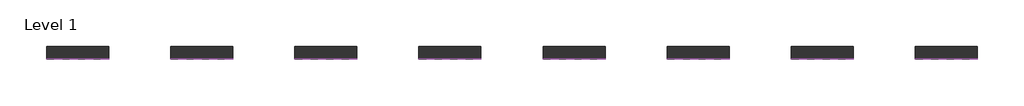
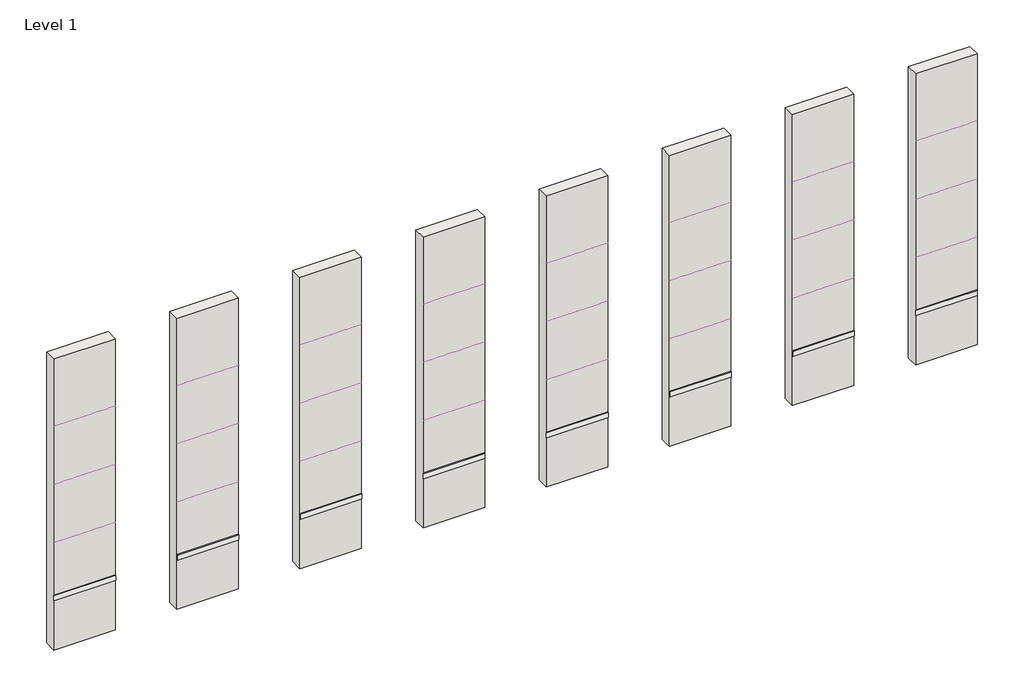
# One storey: 32 coverings, 8 walls.
"""IFC4 building model written with IfcOpenShell, lengths in millimetres."""

import ifcopenshell
import ifcopenshell.guid

model = None  # the IFC model being written
_history = None  # IfcOwnerHistory: only IFC2X3 demands one
_inside = {}  # id of a spatial element -> (the spatial element, [elements in it])
_under = {}  # id of a project, library or spatial element -> (it, [spatial elements below it])
_declared = {}  # id of a project -> (the project, [libraries it declares])
_typed = {}  # id of a type object -> (the type object, [elements of that type])
_made_of = {}  # id of a material, layer set ... -> (it, [elements and type objects made of it])


def new_model(schema):
    """Start an empty IFC model of exactly this schema.

    Asked for "IFC4X3", IfcOpenShell would pick the latest addendum, in which some entities
    have other attributes; the version numbers below select the first issue.
    IFC2X3 requires an IfcOwnerHistory on every rooted entity: one is made here for all.
    """
    global model, _history
    if schema == "IFC4X3":
        model = ifcopenshell.file(schema_version=(4, 3, 0, 0))
    else:
        model = ifcopenshell.file(schema=schema)
    _inside.clear()
    _under.clear()
    _declared.clear()
    _typed.clear()
    _made_of.clear()
    _history = None
    if model.schema == "IFC2X3":
        org = make("IfcOrganization", Name="unknown")
        user = make(
            "IfcPersonAndOrganization",
            ThePerson=make("IfcPerson", FamilyName="unknown"),
            TheOrganization=org,
        )
        app = make(
            "IfcApplication",
            ApplicationDeveloper=org,
            Version="unknown",
            ApplicationFullName="unknown",
            ApplicationIdentifier="unknown",
        )
        _history = make(
            "IfcOwnerHistory",
            OwningUser=user,
            OwningApplication=app,
            ChangeAction="ADDED",
            CreationDate=0,
        )
    return model


def make(cls, **values):
    """One entity of the class cls with the attributes given. An attribute that is None is left unset."""
    return model.create_entity(
        cls, **{name: value for name, value in values.items() if value is not None}
    )


def rooted(cls, **values):
    """An entity with a GlobalId (a new one), such as an element, a storey or a relation."""
    return make(cls, GlobalId=ifcopenshell.guid.new(), OwnerHistory=_history, **values)


def si_unit(unit_type, name, prefix=None):
    """IfcSIUnit, for example si_unit("LENGTHUNIT", "METRE", prefix="MILLI")."""
    return make("IfcSIUnit", UnitType=unit_type, Prefix=prefix, Name=name)


def assignment(units):
    """IfcUnitAssignment: the units of a project."""
    return None if units is None else make("IfcUnitAssignment", Units=units)


def point(xyz):
    """IfcCartesianPoint."""
    return None if xyz is None else make("IfcCartesianPoint", Coordinates=xyz)


def direction(xyz):
    """IfcDirection."""
    return None if xyz is None else make("IfcDirection", DirectionRatios=xyz)


def frame(location, z_axis=None, x_axis=None):
    """IfcAxis2Placement3D, a coordinate frame: its origin and axes. An axis left out is left unset."""
    return make(
        "IfcAxis2Placement3D",
        Location=point(location),
        Axis=direction(z_axis),
        RefDirection=direction(x_axis),
    )


def frame_2d(location, x_axis=None):
    """IfcAxis2Placement2D, a coordinate frame in the plane: its origin and x axis."""
    return make(
        "IfcAxis2Placement2D", Location=point(location), RefDirection=direction(x_axis)
    )


def origin():
    """The frame at (0, 0, 0) with its axes left unset."""
    return frame((0.0, 0.0, 0.0))


def origin_with_axes():
    """The frame at (0, 0, 0) with the z axis (0, 0, 1) and the x axis (1, 0, 0) written out."""
    return frame((0.0, 0.0, 0.0), z_axis=(0.0, 0.0, 1.0), x_axis=(1.0, 0.0, 0.0))


def place(relative_to, where):
    """IfcLocalPlacement: puts the frame where relative to a parent placement (None: the world)."""
    return make(
        "IfcLocalPlacement", PlacementRelTo=relative_to, RelativePlacement=where
    )


def context(
    kind, dimensions, precision=None, world=None, true_north=None, identifier=None
):
    """IfcGeometricRepresentationContext, for example the 3D "Model" context."""
    return make(
        "IfcGeometricRepresentationContext",
        ContextIdentifier=identifier,
        ContextType=kind,
        CoordinateSpaceDimension=dimensions,
        Precision=precision,
        WorldCoordinateSystem=world,
        TrueNorth=true_north,
    )


def project(units=None, contexts=None):
    """IfcProject with its units and contexts."""
    return rooted(
        "IfcProject",
        Name="project",
        RepresentationContexts=contexts,
        UnitsInContext=assignment(units),
    )


def spatial(cls, under=None, at=None, **own):
    """A site, building, storey or space (cls), placed at a placement, below another one or the project."""
    s = rooted(cls, ObjectPlacement=at, **own)
    if under is not None:
        _under.setdefault(under.id(), (under, []))[1].append(s)
    return s


def polyline(points):
    """IfcPolyline through the points."""
    return make("IfcPolyline", Points=[point(p) for p in points])


def circle_curve(where, radius):
    """IfcCircle in the frame where."""
    return make("IfcCircle", Position=where, Radius=radius)


def trimmed(basis, trim1, trim2, sense, master):
    """IfcTrimmedCurve: the piece of a basis curve between two trims."""
    return make(
        "IfcTrimmedCurve",
        BasisCurve=basis,
        Trim1=trim1,
        Trim2=trim2,
        SenseAgreement=sense,
        MasterRepresentation=master,
    )


def segment(curve, same_sense, transition):
    """IfcCompositeCurveSegment."""
    return make(
        "IfcCompositeCurveSegment",
        Transition=transition,
        SameSense=same_sense,
        ParentCurve=curve,
    )


def composite_curve(segments, self_intersect=None):
    """IfcCompositeCurve: segments joined end to end."""
    return make("IfcCompositeCurve", Segments=segments, SelfIntersect=self_intersect)


def outline(outer, holes=None, kind="AREA"):
    """IfcArbitraryClosedProfileDef: a profile drawn as a closed curve; with holes, ...WithVoids."""
    if holes is None:
        return make("IfcArbitraryClosedProfileDef", ProfileType=kind, OuterCurve=outer)
    return make(
        "IfcArbitraryProfileDefWithVoids",
        ProfileType=kind,
        OuterCurve=outer,
        InnerCurves=holes,
    )


def extrude(swept, where, along, depth):
    """IfcExtrudedAreaSolid: the profile swept, set in the frame where, extruded along a direction by depth."""
    return make(
        "IfcExtrudedAreaSolid",
        SweptArea=swept,
        Position=where,
        ExtrudedDirection=direction(along),
        Depth=depth,
    )


def shape(context_of_items, identifier, shape_type, items):
    """IfcShapeRepresentation: the items that make up one representation, for example the "Body"."""
    return make(
        "IfcShapeRepresentation",
        ContextOfItems=context_of_items,
        RepresentationIdentifier=identifier,
        RepresentationType=shape_type,
        Items=items,
    )


def made_of(thing, what):
    """Note that an element or type object is made of a material, layer set ...; save() writes the relation."""
    if what is not None:
        _made_of.setdefault(what.id(), (what, []))[1].append(thing)
    return thing


def element(
    cls,
    number,
    at=None,
    inside=None,
    cuts=None,
    type_object=None,
    material=None,
    context=None,
    identifier="Body",
    shape_type=None,
    held_by="IfcProductDefinitionShape",
    body=None,
    shapes=None,
    **own,
):
    """One element of the class cls, such as IfcWall. Its Tag is "e" and its number.

    at: its placement. inside: the storey or other place that contains it. cuts: it is an
    opening in that element (IfcRelVoidsElement). A single representation is given by context,
    identifier, shape_type and body (its items); several are given by shapes. held_by: the class
    of the entity that holds the representations. save() writes the other relations.
    """
    e = rooted(cls, Tag="e%d" % number, ObjectPlacement=at, **own)
    if body is not None:
        shapes = [shape(context, identifier, shape_type, body)]
    if shapes is not None:
        e.Representation = make(held_by, Representations=shapes)
    if inside is not None:
        _inside.setdefault(inside.id(), (inside, []))[1].append(e)
    if cuts is not None:
        rooted(
            "IfcRelVoidsElement", RelatingBuildingElement=cuts, RelatedOpeningElement=e
        )
    if type_object is not None:
        _typed.setdefault(type_object.id(), (type_object, []))[1].append(e)
    return made_of(e, material)


def aggregate(whole, parts):
    """IfcRelAggregates: a whole, such as a stair, and the parts it consists of."""
    return rooted("IfcRelAggregates", RelatingObject=whole, RelatedObjects=parts)


def save(model, path):
    """Write the relations noted so far, then the file.

    IfcRelAggregates (storeys below a building ...), IfcRelContainedInSpatialStructure (elements
    in a storey), IfcRelDefinesByType, IfcRelAssociatesMaterial and IfcRelDeclares: one each for
    every whole, place, type object, material and project.
    """
    for whole, parts in _under.values():
        aggregate(whole, parts)
    for where, things in _inside.values():
        rooted(
            "IfcRelContainedInSpatialStructure",
            RelatedElements=things,
            RelatingStructure=where,
        )
    for kind, things in _typed.values():
        rooted("IfcRelDefinesByType", RelatedObjects=things, RelatingType=kind)
    for what, things in _made_of.values():
        rooted("IfcRelAssociatesMaterial", RelatedObjects=things, RelatingMaterial=what)
    for by, libraries in _declared.values():
        rooted("IfcRelDeclares", RelatingContext=by, RelatedDefinitions=libraries)
    model.write(path)


model = new_model("IFC4")

# Units and contexts
model_context = context("Model", 3, world=origin())
ifc_project = project(units=[si_unit("LENGTHUNIT", "METRE", prefix="MILLI")], contexts=[model_context])

# Site, building, storey
site = spatial("IfcSite", under=ifc_project)
building = spatial("IfcBuilding", under=site)
storey = spatial("IfcBuildingStorey", under=building, Name="Level 1", Elevation=0.0)

# Coverings
placement = place(None, origin())
element("IfcCovering", 1, ObjectType="REVIGRÉS-LOCUS-RB-8X60-SILK-ALLOY", at=placement, inside=storey, context=model_context, shape_type="SweptSolid", body=[
    extrude(outline(composite_curve([segment(polyline([(-6973.1153225, 2850.0), (-6981.6153225, 2850.0), (-6981.6153225, 2921.5)]), True, "CONTINUOUS"), segment(trimmed(circle_curve(frame_2d((-6973.1153225, 2921.5)), 8.5), [point((-6981.6153225, 2921.5))], [point((-6973.1153225, 2930.0))], False, "CARTESIAN"), True, "CONTINUOUS"), segment(polyline([(-6973.1153225, 2930.0), (-6973.1153225, 2850.0)]), True, "CONTINUOUS")], self_intersect=False)), frame((5592.0023157, 0.0, 0.0), z_axis=(1.0, 0.0, 0.0), x_axis=(0.0, 1.0, 0.0)), (0.0, 0.0, 1.0), 1000.0),
])
element("IfcCovering", 2, ObjectType="REVIGRÉS-LOCUS-RB-8X90-SILK-ALLOY", at=placement, inside=storey, context=model_context, shape_type="SweptSolid", body=[
    extrude(outline(composite_curve([segment(polyline([(-6973.1153225, 1850.0), (-6983.6153225, 1850.0), (-6983.6153225, 1919.5)]), True, "CONTINUOUS"), segment(trimmed(circle_curve(frame_2d((-6973.1153225, 1919.5)), 10.5), [point((-6983.6153225, 1919.5))], [point((-6973.1153225, 1930.0))], False, "CARTESIAN"), True, "CONTINUOUS"), segment(polyline([(-6973.1153225, 1930.0), (-6973.1153225, 1850.0)]), True, "CONTINUOUS")], self_intersect=False)), frame((5592.0023157, 0.0, 0.0), z_axis=(1.0, 0.0, 0.0), x_axis=(0.0, 1.0, 0.0)), (0.0, 0.0, 1.0), 1000.0),
])
element("IfcCovering", 3, ObjectType="REVIGRÉS-LOCUS-RB-8X45-SILK-ALLOY", at=placement, inside=storey, context=model_context, shape_type="SweptSolid", body=[
    extrude(outline(composite_curve([segment(polyline([(-6973.1153225, 3850.0), (-6983.6153225, 3850.0), (-6983.6153225, 3919.5)]), True, "CONTINUOUS"), segment(trimmed(circle_curve(frame_2d((-6973.1153225, 3919.5)), 10.5), [point((-6983.6153225, 3919.5))], [point((-6973.1153225, 3930.0))], False, "CARTESIAN"), True, "CONTINUOUS"), segment(polyline([(-6973.1153225, 3930.0), (-6973.1153225, 3850.0)]), True, "CONTINUOUS")], self_intersect=False)), frame((5592.0023157, 0.0, 0.0), z_axis=(1.0, 0.0, 0.0), x_axis=(0.0, 1.0, 0.0)), (0.0, 0.0, 1.0), 1000.0),
])
element("IfcCovering", 4, ObjectType="REVIGRÉS-LOCUS-RB-9,5X30-SILK-ALLOY", at=placement, inside=storey, context=model_context, shape_type="SweptSolid", body=[
    extrude(outline(composite_curve([segment(polyline([(-6973.1153225, 850.0), (-6981.6153225, 850.0), (-6981.6153225, 936.5)]), True, "CONTINUOUS"), segment(trimmed(circle_curve(frame_2d((-6973.1153225, 936.5)), 8.5), [point((-6981.6153225, 936.5))], [point((-6973.1153225, 945.0))], False, "CARTESIAN"), True, "CONTINUOUS"), segment(polyline([(-6973.1153225, 945.0), (-6973.1153225, 850.0)]), True, "CONTINUOUS")], self_intersect=False)), frame((5592.0023157, 0.0, 0.0), z_axis=(1.0, 0.0, 0.0), x_axis=(0.0, 1.0, 0.0)), (0.0, 0.0, 1.0), 1000.0),
])
element("IfcCovering", 5, ObjectType="REVIGRÉS-LOCUS-RB-8X60-SOFT GRIP-ALLOY", at=placement, inside=storey, context=model_context, shape_type="SweptSolid", body=[
    extrude(outline(composite_curve([segment(polyline([(-6973.1153225, 2850.0), (-6981.6153225, 2850.0), (-6981.6153225, 2921.5)]), True, "CONTINUOUS"), segment(trimmed(circle_curve(frame_2d((-6973.1153225, 2921.5)), 8.5), [point((-6981.6153225, 2921.5))], [point((-6973.1153225, 2930.0))], False, "CARTESIAN"), True, "CONTINUOUS"), segment(polyline([(-6973.1153225, 2930.0), (-6973.1153225, 2850.0)]), True, "CONTINUOUS")], self_intersect=False)), frame((7592.0023157, 0.0, 0.0), z_axis=(1.0, 0.0, 0.0), x_axis=(0.0, 1.0, 0.0)), (0.0, 0.0, 1.0), 1000.0),
])
element("IfcCovering", 6, ObjectType="REVIGRÉS-LOCUS-RB-8X90-SOFT GRIP-ALLOY", at=placement, inside=storey, context=model_context, shape_type="SweptSolid", body=[
    extrude(outline(composite_curve([segment(polyline([(-6973.1153225, 1850.0), (-6983.6153225, 1850.0), (-6983.6153225, 1919.5)]), True, "CONTINUOUS"), segment(trimmed(circle_curve(frame_2d((-6973.1153225, 1919.5)), 10.5), [point((-6983.6153225, 1919.5))], [point((-6973.1153225, 1930.0))], False, "CARTESIAN"), True, "CONTINUOUS"), segment(polyline([(-6973.1153225, 1930.0), (-6973.1153225, 1850.0)]), True, "CONTINUOUS")], self_intersect=False)), frame((7592.0023157, 0.0, 0.0), z_axis=(1.0, 0.0, 0.0), x_axis=(0.0, 1.0, 0.0)), (0.0, 0.0, 1.0), 1000.0),
])
element("IfcCovering", 7, ObjectType="REVIGRÉS-LOCUS-RB-8X45-SOFT GRIP-ALLOY", at=placement, inside=storey, context=model_context, shape_type="SweptSolid", body=[
    extrude(outline(composite_curve([segment(polyline([(-6973.1153225, 3850.0), (-6983.6153225, 3850.0), (-6983.6153225, 3919.5)]), True, "CONTINUOUS"), segment(trimmed(circle_curve(frame_2d((-6973.1153225, 3919.5)), 10.5), [point((-6983.6153225, 3919.5))], [point((-6973.1153225, 3930.0))], False, "CARTESIAN"), True, "CONTINUOUS"), segment(polyline([(-6973.1153225, 3930.0), (-6973.1153225, 3850.0)]), True, "CONTINUOUS")], self_intersect=False)), frame((7592.0023157, 0.0, 0.0), z_axis=(1.0, 0.0, 0.0), x_axis=(0.0, 1.0, 0.0)), (0.0, 0.0, 1.0), 1000.0),
])
element("IfcCovering", 8, ObjectType="REVIGRÉS-LOCUS-RB-9,5X30-SOFT GRIP-ALLOY", at=placement, inside=storey, context=model_context, shape_type="SweptSolid", body=[
    extrude(outline(composite_curve([segment(polyline([(-6973.1153225, 850.0), (-6981.6153225, 850.0), (-6981.6153225, 936.5)]), True, "CONTINUOUS"), segment(trimmed(circle_curve(frame_2d((-6973.1153225, 936.5)), 8.5), [point((-6981.6153225, 936.5))], [point((-6973.1153225, 945.0))], False, "CARTESIAN"), True, "CONTINUOUS"), segment(polyline([(-6973.1153225, 945.0), (-6973.1153225, 850.0)]), True, "CONTINUOUS")], self_intersect=False)), frame((7592.0023157, 0.0, 0.0), z_axis=(1.0, 0.0, 0.0), x_axis=(0.0, 1.0, 0.0)), (0.0, 0.0, 1.0), 1000.0),
])
element("IfcCovering", 9, ObjectType="REVIGRÉS-LOCUS-RB-8X60-SILK-BONE", at=placement, inside=storey, context=model_context, shape_type="SweptSolid", body=[
    extrude(outline(composite_curve([segment(polyline([(-6973.1153225, 2850.0), (-6981.6153225, 2850.0), (-6981.6153225, 2921.5)]), True, "CONTINUOUS"), segment(trimmed(circle_curve(frame_2d((-6973.1153225, 2921.5)), 8.5), [point((-6981.6153225, 2921.5))], [point((-6973.1153225, 2930.0))], False, "CARTESIAN"), True, "CONTINUOUS"), segment(polyline([(-6973.1153225, 2930.0), (-6973.1153225, 2850.0)]), True, "CONTINUOUS")], self_intersect=False)), frame((9592.0023157, 0.0, 0.0), z_axis=(1.0, 0.0, 0.0), x_axis=(0.0, 1.0, 0.0)), (0.0, 0.0, 1.0), 1000.0),
])
element("IfcCovering", 10, ObjectType="REVIGRÉS-LOCUS-RB-8X90-SILK-BONE", at=placement, inside=storey, context=model_context, shape_type="SweptSolid", body=[
    extrude(outline(composite_curve([segment(polyline([(-6973.1153225, 1850.0), (-6983.6153225, 1850.0), (-6983.6153225, 1919.5)]), True, "CONTINUOUS"), segment(trimmed(circle_curve(frame_2d((-6973.1153225, 1919.5)), 10.5), [point((-6983.6153225, 1919.5))], [point((-6973.1153225, 1930.0))], False, "CARTESIAN"), True, "CONTINUOUS"), segment(polyline([(-6973.1153225, 1930.0), (-6973.1153225, 1850.0)]), True, "CONTINUOUS")], self_intersect=False)), frame((9592.0023157, 0.0, 0.0), z_axis=(1.0, 0.0, 0.0), x_axis=(0.0, 1.0, 0.0)), (0.0, 0.0, 1.0), 1000.0),
])
element("IfcCovering", 11, ObjectType="REVIGRÉS-LOCUS-RB-8X45-SILK-BONE", at=placement, inside=storey, context=model_context, shape_type="SweptSolid", body=[
    extrude(outline(composite_curve([segment(polyline([(-6973.1153225, 3850.0), (-6983.6153225, 3850.0), (-6983.6153225, 3919.5)]), True, "CONTINUOUS"), segment(trimmed(circle_curve(frame_2d((-6973.1153225, 3919.5)), 10.5), [point((-6983.6153225, 3919.5))], [point((-6973.1153225, 3930.0))], False, "CARTESIAN"), True, "CONTINUOUS"), segment(polyline([(-6973.1153225, 3930.0), (-6973.1153225, 3850.0)]), True, "CONTINUOUS")], self_intersect=False)), frame((9592.0023157, 0.0, 0.0), z_axis=(1.0, 0.0, 0.0), x_axis=(0.0, 1.0, 0.0)), (0.0, 0.0, 1.0), 1000.0),
])
element("IfcCovering", 12, ObjectType="REVIGRÉS-LOCUS-RB-9,5X30-SILK-BONE", at=placement, inside=storey, context=model_context, shape_type="SweptSolid", body=[
    extrude(outline(composite_curve([segment(polyline([(-6973.1153225, 850.0), (-6981.6153225, 850.0), (-6981.6153225, 936.5)]), True, "CONTINUOUS"), segment(trimmed(circle_curve(frame_2d((-6973.1153225, 936.5)), 8.5), [point((-6981.6153225, 936.5))], [point((-6973.1153225, 945.0))], False, "CARTESIAN"), True, "CONTINUOUS"), segment(polyline([(-6973.1153225, 945.0), (-6973.1153225, 850.0)]), True, "CONTINUOUS")], self_intersect=False)), frame((9592.0023157, 0.0, 0.0), z_axis=(1.0, 0.0, 0.0), x_axis=(0.0, 1.0, 0.0)), (0.0, 0.0, 1.0), 1000.0),
])
element("IfcCovering", 13, ObjectType="REVIGRÉS-LOCUS-RB-8X60-SOFT GRIP-BONE", at=placement, inside=storey, context=model_context, shape_type="SweptSolid", body=[
    extrude(outline(composite_curve([segment(polyline([(-6973.1153225, 2850.0), (-6981.6153225, 2850.0), (-6981.6153225, 2921.5)]), True, "CONTINUOUS"), segment(trimmed(circle_curve(frame_2d((-6973.1153225, 2921.5)), 8.5), [point((-6981.6153225, 2921.5))], [point((-6973.1153225, 2930.0))], False, "CARTESIAN"), True, "CONTINUOUS"), segment(polyline([(-6973.1153225, 2930.0), (-6973.1153225, 2850.0)]), True, "CONTINUOUS")], self_intersect=False)), frame((11592.0023157, 0.0, 0.0), z_axis=(1.0, 0.0, 0.0), x_axis=(0.0, 1.0, 0.0)), (0.0, 0.0, 1.0), 1000.0),
])
element("IfcCovering", 14, ObjectType="REVIGRÉS-LOCUS-RB-8X90-SOFT GRIP-BONE", at=placement, inside=storey, context=model_context, shape_type="SweptSolid", body=[
    extrude(outline(composite_curve([segment(polyline([(-6973.1153225, 1850.0), (-6983.6153225, 1850.0), (-6983.6153225, 1919.5)]), True, "CONTINUOUS"), segment(trimmed(circle_curve(frame_2d((-6973.1153225, 1919.5)), 10.5), [point((-6983.6153225, 1919.5))], [point((-6973.1153225, 1930.0))], False, "CARTESIAN"), True, "CONTINUOUS"), segment(polyline([(-6973.1153225, 1930.0), (-6973.1153225, 1850.0)]), True, "CONTINUOUS")], self_intersect=False)), frame((11592.0023157, 0.0, 0.0), z_axis=(1.0, 0.0, 0.0), x_axis=(0.0, 1.0, 0.0)), (0.0, 0.0, 1.0), 1000.0),
])
element("IfcCovering", 15, ObjectType="REVIGRÉS-LOCUS-RB-8X45-SOFT GRIP-BONE", at=placement, inside=storey, context=model_context, shape_type="SweptSolid", body=[
    extrude(outline(composite_curve([segment(polyline([(-6973.1153225, 3850.0), (-6983.6153225, 3850.0), (-6983.6153225, 3919.5)]), True, "CONTINUOUS"), segment(trimmed(circle_curve(frame_2d((-6973.1153225, 3919.5)), 10.5), [point((-6983.6153225, 3919.5))], [point((-6973.1153225, 3930.0))], False, "CARTESIAN"), True, "CONTINUOUS"), segment(polyline([(-6973.1153225, 3930.0), (-6973.1153225, 3850.0)]), True, "CONTINUOUS")], self_intersect=False)), frame((11592.0023157, 0.0, 0.0), z_axis=(1.0, 0.0, 0.0), x_axis=(0.0, 1.0, 0.0)), (0.0, 0.0, 1.0), 1000.0),
])
element("IfcCovering", 16, ObjectType="REVIGRÉS-LOCUS-RB-9,5X30-SOFT GRIP-BONE", at=placement, inside=storey, context=model_context, shape_type="SweptSolid", body=[
    extrude(outline(composite_curve([segment(polyline([(-6973.1153225, 850.0), (-6981.6153225, 850.0), (-6981.6153225, 936.5)]), True, "CONTINUOUS"), segment(trimmed(circle_curve(frame_2d((-6973.1153225, 936.5)), 8.5), [point((-6981.6153225, 936.5))], [point((-6973.1153225, 945.0))], False, "CARTESIAN"), True, "CONTINUOUS"), segment(polyline([(-6973.1153225, 945.0), (-6973.1153225, 850.0)]), True, "CONTINUOUS")], self_intersect=False)), frame((11592.0023157, 0.0, 0.0), z_axis=(1.0, 0.0, 0.0), x_axis=(0.0, 1.0, 0.0)), (0.0, 0.0, 1.0), 1000.0),
])
element("IfcCovering", 17, ObjectType="REVIGRÉS-LOCUS-RB-8X60-SILK-GRIS", at=placement, inside=storey, context=model_context, shape_type="SweptSolid", body=[
    extrude(outline(composite_curve([segment(polyline([(-6973.1153225, 2850.0), (-6981.6153225, 2850.0), (-6981.6153225, 2921.5)]), True, "CONTINUOUS"), segment(trimmed(circle_curve(frame_2d((-6973.1153225, 2921.5)), 8.5), [point((-6981.6153225, 2921.5))], [point((-6973.1153225, 2930.0))], False, "CARTESIAN"), True, "CONTINUOUS"), segment(polyline([(-6973.1153225, 2930.0), (-6973.1153225, 2850.0)]), True, "CONTINUOUS")], self_intersect=False)), frame((13592.0023157, 0.0, 0.0), z_axis=(1.0, 0.0, 0.0), x_axis=(0.0, 1.0, 0.0)), (0.0, 0.0, 1.0), 1000.0),
])
element("IfcCovering", 18, ObjectType="REVIGRÉS-LOCUS-RB-8X90-SILK-GRIS", at=placement, inside=storey, context=model_context, shape_type="SweptSolid", body=[
    extrude(outline(composite_curve([segment(polyline([(-6973.1153225, 1850.0), (-6983.6153225, 1850.0), (-6983.6153225, 1919.5)]), True, "CONTINUOUS"), segment(trimmed(circle_curve(frame_2d((-6973.1153225, 1919.5)), 10.5), [point((-6983.6153225, 1919.5))], [point((-6973.1153225, 1930.0))], False, "CARTESIAN"), True, "CONTINUOUS"), segment(polyline([(-6973.1153225, 1930.0), (-6973.1153225, 1850.0)]), True, "CONTINUOUS")], self_intersect=False)), frame((13592.0023157, 0.0, 0.0), z_axis=(1.0, 0.0, 0.0), x_axis=(0.0, 1.0, 0.0)), (0.0, 0.0, 1.0), 1000.0),
])
element("IfcCovering", 19, ObjectType="REVIGRÉS-LOCUS-RB-8X45-SILK-GRIS", at=placement, inside=storey, context=model_context, shape_type="SweptSolid", body=[
    extrude(outline(composite_curve([segment(polyline([(-6973.1153225, 3850.0), (-6983.6153225, 3850.0), (-6983.6153225, 3919.5)]), True, "CONTINUOUS"), segment(trimmed(circle_curve(frame_2d((-6973.1153225, 3919.5)), 10.5), [point((-6983.6153225, 3919.5))], [point((-6973.1153225, 3930.0))], False, "CARTESIAN"), True, "CONTINUOUS"), segment(polyline([(-6973.1153225, 3930.0), (-6973.1153225, 3850.0)]), True, "CONTINUOUS")], self_intersect=False)), frame((13592.0023157, 0.0, 0.0), z_axis=(1.0, 0.0, 0.0), x_axis=(0.0, 1.0, 0.0)), (0.0, 0.0, 1.0), 1000.0),
])
element("IfcCovering", 20, ObjectType="REVIGRÉS-LOCUS-RB-9,5X30-SILK-GRIS", at=placement, inside=storey, context=model_context, shape_type="SweptSolid", body=[
    extrude(outline(composite_curve([segment(polyline([(-6973.1153225, 850.0), (-6981.6153225, 850.0), (-6981.6153225, 936.5)]), True, "CONTINUOUS"), segment(trimmed(circle_curve(frame_2d((-6973.1153225, 936.5)), 8.5), [point((-6981.6153225, 936.5))], [point((-6973.1153225, 945.0))], False, "CARTESIAN"), True, "CONTINUOUS"), segment(polyline([(-6973.1153225, 945.0), (-6973.1153225, 850.0)]), True, "CONTINUOUS")], self_intersect=False)), frame((13592.0023157, 0.0, 0.0), z_axis=(1.0, 0.0, 0.0), x_axis=(0.0, 1.0, 0.0)), (0.0, 0.0, 1.0), 1000.0),
])
element("IfcCovering", 21, ObjectType="REVIGRÉS-LOCUS-RB-8X60-SOFT GRIP-GRIS", at=placement, inside=storey, context=model_context, shape_type="SweptSolid", body=[
    extrude(outline(composite_curve([segment(polyline([(-6973.1153225, 2850.0), (-6981.6153225, 2850.0), (-6981.6153225, 2921.5)]), True, "CONTINUOUS"), segment(trimmed(circle_curve(frame_2d((-6973.1153225, 2921.5)), 8.5), [point((-6981.6153225, 2921.5))], [point((-6973.1153225, 2930.0))], False, "CARTESIAN"), True, "CONTINUOUS"), segment(polyline([(-6973.1153225, 2930.0), (-6973.1153225, 2850.0)]), True, "CONTINUOUS")], self_intersect=False)), frame((15592.0023157, 0.0, 0.0), z_axis=(1.0, 0.0, 0.0), x_axis=(0.0, 1.0, 0.0)), (0.0, 0.0, 1.0), 1000.0),
])
element("IfcCovering", 22, ObjectType="REVIGRÉS-LOCUS-RB-8X90-SOFT GRIP-GRIS", at=placement, inside=storey, context=model_context, shape_type="SweptSolid", body=[
    extrude(outline(composite_curve([segment(polyline([(-6973.1153225, 1850.0), (-6983.6153225, 1850.0), (-6983.6153225, 1919.5)]), True, "CONTINUOUS"), segment(trimmed(circle_curve(frame_2d((-6973.1153225, 1919.5)), 10.5), [point((-6983.6153225, 1919.5))], [point((-6973.1153225, 1930.0))], False, "CARTESIAN"), True, "CONTINUOUS"), segment(polyline([(-6973.1153225, 1930.0), (-6973.1153225, 1850.0)]), True, "CONTINUOUS")], self_intersect=False)), frame((15592.0023157, 0.0, 0.0), z_axis=(1.0, 0.0, 0.0), x_axis=(0.0, 1.0, 0.0)), (0.0, 0.0, 1.0), 1000.0),
])
element("IfcCovering", 23, ObjectType="REVIGRÉS-LOCUS-RB-8X45-SOFT GRIP-GRIS", at=placement, inside=storey, context=model_context, shape_type="SweptSolid", body=[
    extrude(outline(composite_curve([segment(polyline([(-6973.1153225, 3850.0), (-6983.6153225, 3850.0), (-6983.6153225, 3919.5)]), True, "CONTINUOUS"), segment(trimmed(circle_curve(frame_2d((-6973.1153225, 3919.5)), 10.5), [point((-6983.6153225, 3919.5))], [point((-6973.1153225, 3930.0))], False, "CARTESIAN"), True, "CONTINUOUS"), segment(polyline([(-6973.1153225, 3930.0), (-6973.1153225, 3850.0)]), True, "CONTINUOUS")], self_intersect=False)), frame((15592.0023157, 0.0, 0.0), z_axis=(1.0, 0.0, 0.0), x_axis=(0.0, 1.0, 0.0)), (0.0, 0.0, 1.0), 1000.0),
])
element("IfcCovering", 24, ObjectType="REVIGRÉS-LOCUS-RB-9,5X30-SOFT GRIP-GRIS", at=placement, inside=storey, context=model_context, shape_type="SweptSolid", body=[
    extrude(outline(composite_curve([segment(polyline([(-6973.1153225, 850.0), (-6981.6153225, 850.0), (-6981.6153225, 936.5)]), True, "CONTINUOUS"), segment(trimmed(circle_curve(frame_2d((-6973.1153225, 936.5)), 8.5), [point((-6981.6153225, 936.5))], [point((-6973.1153225, 945.0))], False, "CARTESIAN"), True, "CONTINUOUS"), segment(polyline([(-6973.1153225, 945.0), (-6973.1153225, 850.0)]), True, "CONTINUOUS")], self_intersect=False)), frame((15592.0023157, 0.0, 0.0), z_axis=(1.0, 0.0, 0.0), x_axis=(0.0, 1.0, 0.0)), (0.0, 0.0, 1.0), 1000.0),
])
element("IfcCovering", 25, ObjectType="REVIGRÉS-LOCUS-RB-8X60-SILK-SMOG", at=placement, inside=storey, context=model_context, shape_type="SweptSolid", body=[
    extrude(outline(composite_curve([segment(polyline([(-6973.1153225, 2850.0), (-6981.6153225, 2850.0), (-6981.6153225, 2921.5)]), True, "CONTINUOUS"), segment(trimmed(circle_curve(frame_2d((-6973.1153225, 2921.5)), 8.5), [point((-6981.6153225, 2921.5))], [point((-6973.1153225, 2930.0))], False, "CARTESIAN"), True, "CONTINUOUS"), segment(polyline([(-6973.1153225, 2930.0), (-6973.1153225, 2850.0)]), True, "CONTINUOUS")], self_intersect=False)), frame((17592.0023157, 0.0, 0.0), z_axis=(1.0, 0.0, 0.0), x_axis=(0.0, 1.0, 0.0)), (0.0, 0.0, 1.0), 1000.0),
])
element("IfcCovering", 26, ObjectType="REVIGRÉS-LOCUS-RB-8X90-SILK-SMOG", at=placement, inside=storey, context=model_context, shape_type="SweptSolid", body=[
    extrude(outline(composite_curve([segment(polyline([(-6973.1153225, 1850.0), (-6983.6153225, 1850.0), (-6983.6153225, 1919.5)]), True, "CONTINUOUS"), segment(trimmed(circle_curve(frame_2d((-6973.1153225, 1919.5)), 10.5), [point((-6983.6153225, 1919.5))], [point((-6973.1153225, 1930.0))], False, "CARTESIAN"), True, "CONTINUOUS"), segment(polyline([(-6973.1153225, 1930.0), (-6973.1153225, 1850.0)]), True, "CONTINUOUS")], self_intersect=False)), frame((17592.0023157, 0.0, 0.0), z_axis=(1.0, 0.0, 0.0), x_axis=(0.0, 1.0, 0.0)), (0.0, 0.0, 1.0), 1000.0),
])
element("IfcCovering", 27, ObjectType="REVIGRÉS-LOCUS-RB-8X45-SILK-SMOG", at=placement, inside=storey, context=model_context, shape_type="SweptSolid", body=[
    extrude(outline(composite_curve([segment(polyline([(-6973.1153225, 3850.0), (-6983.6153225, 3850.0), (-6983.6153225, 3919.5)]), True, "CONTINUOUS"), segment(trimmed(circle_curve(frame_2d((-6973.1153225, 3919.5)), 10.5), [point((-6983.6153225, 3919.5))], [point((-6973.1153225, 3930.0))], False, "CARTESIAN"), True, "CONTINUOUS"), segment(polyline([(-6973.1153225, 3930.0), (-6973.1153225, 3850.0)]), True, "CONTINUOUS")], self_intersect=False)), frame((17592.0023157, 0.0, 0.0), z_axis=(1.0, 0.0, 0.0), x_axis=(0.0, 1.0, 0.0)), (0.0, 0.0, 1.0), 1000.0),
])
element("IfcCovering", 28, ObjectType="REVIGRÉS-LOCUS-RB-9,5X30-SILK-SMOG", at=placement, inside=storey, context=model_context, shape_type="SweptSolid", body=[
    extrude(outline(composite_curve([segment(polyline([(-6973.1153225, 850.0), (-6981.6153225, 850.0), (-6981.6153225, 936.5)]), True, "CONTINUOUS"), segment(trimmed(circle_curve(frame_2d((-6973.1153225, 936.5)), 8.5), [point((-6981.6153225, 936.5))], [point((-6973.1153225, 945.0))], False, "CARTESIAN"), True, "CONTINUOUS"), segment(polyline([(-6973.1153225, 945.0), (-6973.1153225, 850.0)]), True, "CONTINUOUS")], self_intersect=False)), frame((17592.0023157, 0.0, 0.0), z_axis=(1.0, 0.0, 0.0), x_axis=(0.0, 1.0, 0.0)), (0.0, 0.0, 1.0), 1000.0),
])
element("IfcCovering", 29, ObjectType="REVIGRÉS-LOCUS-RB-8X60-SOFT GRIP-SMOG", at=placement, inside=storey, context=model_context, shape_type="SweptSolid", body=[
    extrude(outline(composite_curve([segment(polyline([(-6973.1153225, 2850.0), (-6981.6153225, 2850.0), (-6981.6153225, 2921.5)]), True, "CONTINUOUS"), segment(trimmed(circle_curve(frame_2d((-6973.1153225, 2921.5)), 8.5), [point((-6981.6153225, 2921.5))], [point((-6973.1153225, 2930.0))], False, "CARTESIAN"), True, "CONTINUOUS"), segment(polyline([(-6973.1153225, 2930.0), (-6973.1153225, 2850.0)]), True, "CONTINUOUS")], self_intersect=False)), frame((19592.0023157, 0.0, 0.0), z_axis=(1.0, 0.0, 0.0), x_axis=(0.0, 1.0, 0.0)), (0.0, 0.0, 1.0), 1000.0),
])
element("IfcCovering", 30, ObjectType="REVIGRÉS-LOCUS-RB-8X90-SOFT GRIP-SMOG", at=placement, inside=storey, context=model_context, shape_type="SweptSolid", body=[
    extrude(outline(composite_curve([segment(polyline([(-6973.1153225, 1850.0), (-6983.6153225, 1850.0), (-6983.6153225, 1919.5)]), True, "CONTINUOUS"), segment(trimmed(circle_curve(frame_2d((-6973.1153225, 1919.5)), 10.5), [point((-6983.6153225, 1919.5))], [point((-6973.1153225, 1930.0))], False, "CARTESIAN"), True, "CONTINUOUS"), segment(polyline([(-6973.1153225, 1930.0), (-6973.1153225, 1850.0)]), True, "CONTINUOUS")], self_intersect=False)), frame((19592.0023157, 0.0, 0.0), z_axis=(1.0, 0.0, 0.0), x_axis=(0.0, 1.0, 0.0)), (0.0, 0.0, 1.0), 1000.0),
])
element("IfcCovering", 31, ObjectType="REVIGRÉS-LOCUS-RB-8X45-SOFT GRIP-SMOG", at=placement, inside=storey, context=model_context, shape_type="SweptSolid", body=[
    extrude(outline(composite_curve([segment(polyline([(-6973.1153225, 3850.0), (-6983.6153225, 3850.0), (-6983.6153225, 3919.5)]), True, "CONTINUOUS"), segment(trimmed(circle_curve(frame_2d((-6973.1153225, 3919.5)), 10.5), [point((-6983.6153225, 3919.5))], [point((-6973.1153225, 3930.0))], False, "CARTESIAN"), True, "CONTINUOUS"), segment(polyline([(-6973.1153225, 3930.0), (-6973.1153225, 3850.0)]), True, "CONTINUOUS")], self_intersect=False)), frame((19592.0023157, 0.0, 0.0), z_axis=(1.0, 0.0, 0.0), x_axis=(0.0, 1.0, 0.0)), (0.0, 0.0, 1.0), 1000.0),
])
element("IfcCovering", 32, ObjectType="REVIGRÉS-LOCUS-RB-9,5X30-SOFT GRIP-SMOG", at=placement, inside=storey, context=model_context, shape_type="SweptSolid", body=[
    extrude(outline(composite_curve([segment(polyline([(-6973.1153225, 850.0), (-6981.6153225, 850.0), (-6981.6153225, 936.5)]), True, "CONTINUOUS"), segment(trimmed(circle_curve(frame_2d((-6973.1153225, 936.5)), 8.5), [point((-6981.6153225, 936.5))], [point((-6973.1153225, 945.0))], False, "CARTESIAN"), True, "CONTINUOUS"), segment(polyline([(-6973.1153225, 945.0), (-6973.1153225, 850.0)]), True, "CONTINUOUS")], self_intersect=False)), frame((19592.0023157, 0.0, 0.0), z_axis=(1.0, 0.0, 0.0), x_axis=(0.0, 1.0, 0.0)), (0.0, 0.0, 1.0), 1000.0),
])

# Walls
element("IfcWall", 33, ObjectType="Wall 1", at=placement, inside=storey, context=model_context, shape_type="SweptSolid", body=[
    extrude(outline(polyline([(6592.0023157, -6973.1153225), (5592.0023157, -6973.1153225), (5592.0023157, -6773.1153225), (6592.0023157, -6773.1153225), (6592.0023157, -6973.1153225)])), origin_with_axes(), (0.0, 0.0, 1.0), 5000.0),
])
element("IfcWall", 34, ObjectType="Wall 1", at=placement, inside=storey, context=model_context, shape_type="SweptSolid", body=[
    extrude(outline(polyline([(8592.0023157, -6973.1153225), (7592.0023157, -6973.1153225), (7592.0023157, -6773.1153225), (8592.0023157, -6773.1153225), (8592.0023157, -6973.1153225)])), origin_with_axes(), (0.0, 0.0, 1.0), 5000.0),
])
element("IfcWall", 35, ObjectType="Wall 1", at=placement, inside=storey, context=model_context, shape_type="SweptSolid", body=[
    extrude(outline(polyline([(10592.0023157, -6973.1153225), (9592.0023157, -6973.1153225), (9592.0023157, -6773.1153225), (10592.0023157, -6773.1153225), (10592.0023157, -6973.1153225)])), origin_with_axes(), (0.0, 0.0, 1.0), 5000.0),
])
element("IfcWall", 36, ObjectType="Wall 1", at=placement, inside=storey, context=model_context, shape_type="SweptSolid", body=[
    extrude(outline(polyline([(12592.0023157, -6973.1153225), (11592.0023157, -6973.1153225), (11592.0023157, -6773.1153225), (12592.0023157, -6773.1153225), (12592.0023157, -6973.1153225)])), origin_with_axes(), (0.0, 0.0, 1.0), 5000.0),
])
element("IfcWall", 37, ObjectType="Wall 1", at=placement, inside=storey, context=model_context, shape_type="SweptSolid", body=[
    extrude(outline(polyline([(14592.0023157, -6973.1153225), (13592.0023157, -6973.1153225), (13592.0023157, -6773.1153225), (14592.0023157, -6773.1153225), (14592.0023157, -6973.1153225)])), origin_with_axes(), (0.0, 0.0, 1.0), 5000.0),
])
element("IfcWall", 38, ObjectType="Wall 1", at=placement, inside=storey, context=model_context, shape_type="SweptSolid", body=[
    extrude(outline(polyline([(16592.0023157, -6973.1153225), (15592.0023157, -6973.1153225), (15592.0023157, -6773.1153225), (16592.0023157, -6773.1153225), (16592.0023157, -6973.1153225)])), origin_with_axes(), (0.0, 0.0, 1.0), 5000.0),
])
element("IfcWall", 39, ObjectType="Wall 1", at=placement, inside=storey, context=model_context, shape_type="SweptSolid", body=[
    extrude(outline(polyline([(18592.0023157, -6973.1153225), (17592.0023157, -6973.1153225), (17592.0023157, -6773.1153225), (18592.0023157, -6773.1153225), (18592.0023157, -6973.1153225)])), origin_with_axes(), (0.0, 0.0, 1.0), 5000.0),
])
element("IfcWall", 40, ObjectType="Wall 1", at=placement, inside=storey, context=model_context, shape_type="SweptSolid", body=[
    extrude(outline(polyline([(20592.0023157, -6973.1153225), (19592.0023157, -6973.1153225), (19592.0023157, -6773.1153225), (20592.0023157, -6773.1153225), (20592.0023157, -6973.1153225)])), origin_with_axes(), (0.0, 0.0, 1.0), 5000.0),
])

save(model, "model.ifc")
